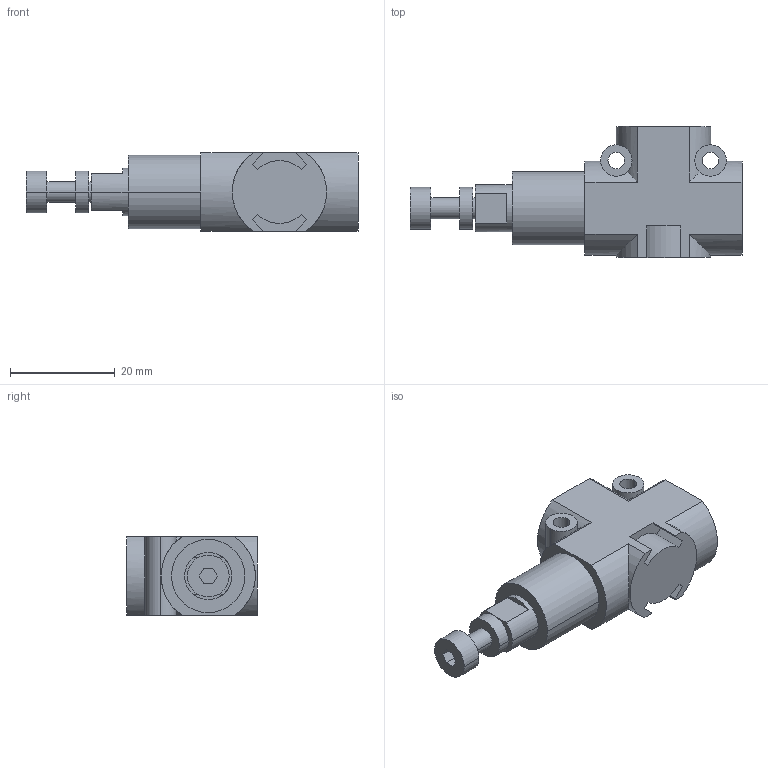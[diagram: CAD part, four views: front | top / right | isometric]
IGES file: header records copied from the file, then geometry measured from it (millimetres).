
Global section: file name: No Iges File Name specified; native system: Autodesk Inventor 2009; preprocessor: AutoDesk Inventor Iges Exporter R2009; author: rivolro1; date: 20090430.143917; units: millimetre
Bounding box: 63.4 x 25 x 15 mm (x, y, z)
Volume: 10646.7 mm3; surface area: 5256.4 mm2
Topology: 1 solids, 2 shells, 81 faces, 204 edges, 136 vertices
Faces by surface type: plane 36, cylinder 25, bspline 14, revolution 6
